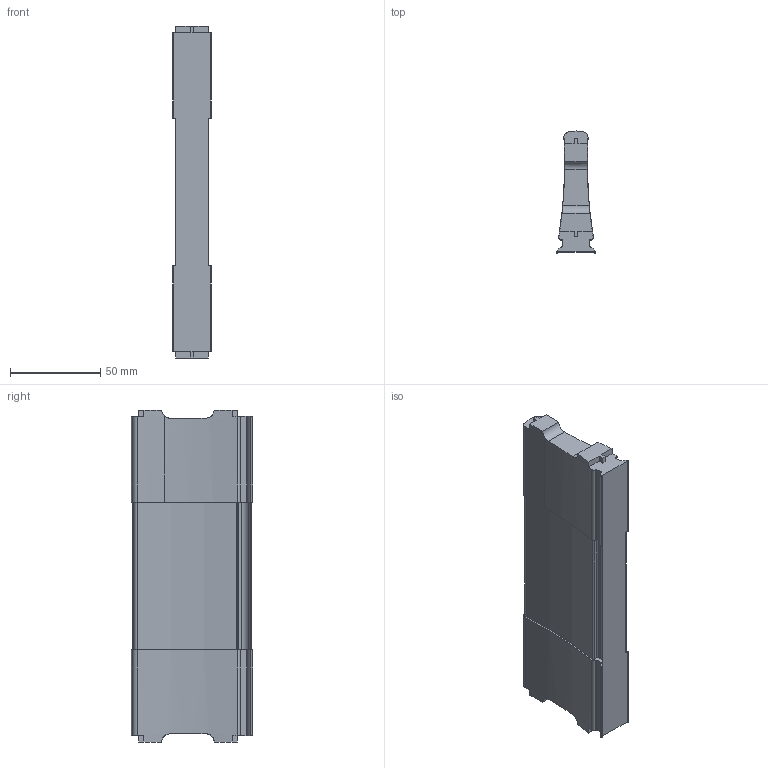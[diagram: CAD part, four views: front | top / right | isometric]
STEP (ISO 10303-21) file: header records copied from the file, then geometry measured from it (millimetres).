
FILE_DESCRIPTION (( 'STEP AP214' ), '1' );
FILE_NAME ('Traverse DWD NL180 Mass X175,4.step', '2010-09-21T13:16:32', ( 'grass' ), ( '' ), 'SwSTEP 2.0', 'SolidWorks 2010', '' );
FILE_SCHEMA (( 'AUTOMOTIVE_DESIGN' ));
Length unit declared in the file: millimetre
Products named in the file (1): Traverse DWD NL180 Mass X175,4
Bounding box: 21.4 x 67.5 x 184.4 mm (x, y, z)
Volume: 160534.9 mm3; surface area: 33368.5 mm2
Topology: 1 solids, 1 shells, 125 faces, 369 edges, 246 vertices
Faces by surface type: cylinder 68, plane 57
Entity records: 4377 total; most frequent: CARTESIAN_POINT 879, DIRECTION 753, ORIENTED_EDGE 738, EDGE_CURVE 369, AXIS2_PLACEMENT_3D 268, VERTEX_POINT 246, LINE 217, VECTOR 217
